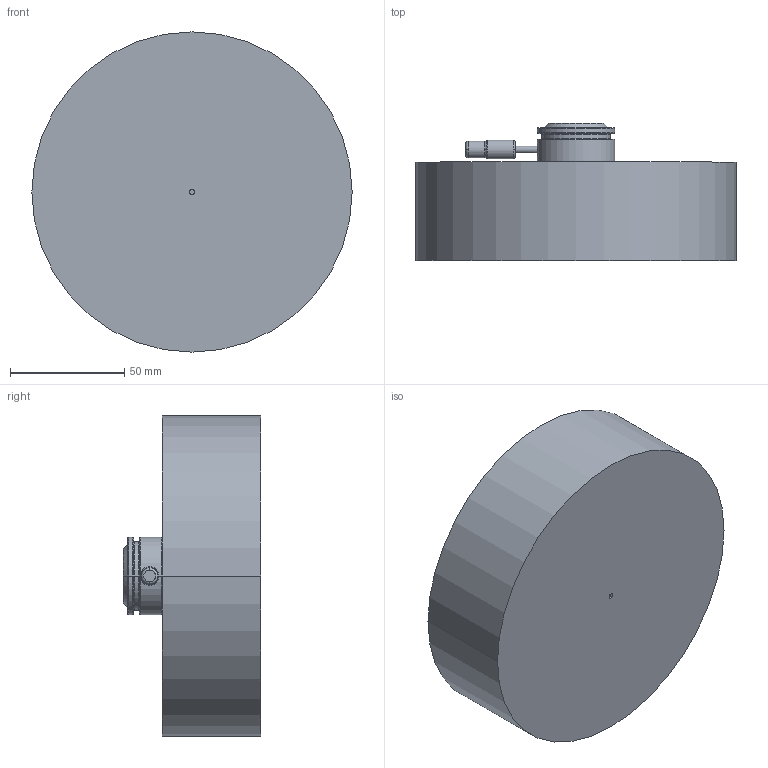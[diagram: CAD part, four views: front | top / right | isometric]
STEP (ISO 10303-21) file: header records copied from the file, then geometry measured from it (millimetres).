
FILE_DESCRIPTION((''),'2;1');
FILE_NAME('M34G102.stp','2020-09-17T12:50:37',(''),(''),'AutoCAD STEP 2000i','AutoCAD 2000i',', , ');
FILE_SCHEMA(('CONFIG_CONTROL_DESIGN'));
Length unit declared in the file: millimetre
Products named in the file (3): DRAWING1; NOZZLE M102G34; MOLD BODY 102G M 34
Assembly tree (2 placements, depth 2):
  DRAWING1
    NOZZLE M102G34
    MOLD BODY 102G M 34
Bounding box: 140 x 60 x 140 mm (x, y, z)
Volume: 673284.4 mm3; surface area: 59778.7 mm2
Topology: 2 solids, 2 shells, 116 faces, 269 edges, 169 vertices
Faces by surface type: cone 38, cylinder 36, plane 18, bspline 16, torus 8
Entity records: 4104 total; most frequent: CARTESIAN_POINT 1238, DIRECTION 659, ORIENTED_EDGE 534, AXIS2_PLACEMENT_3D 292, EDGE_CURVE 267, CIRCLE 189, VERTEX_POINT 169, EDGE_LOOP 132
